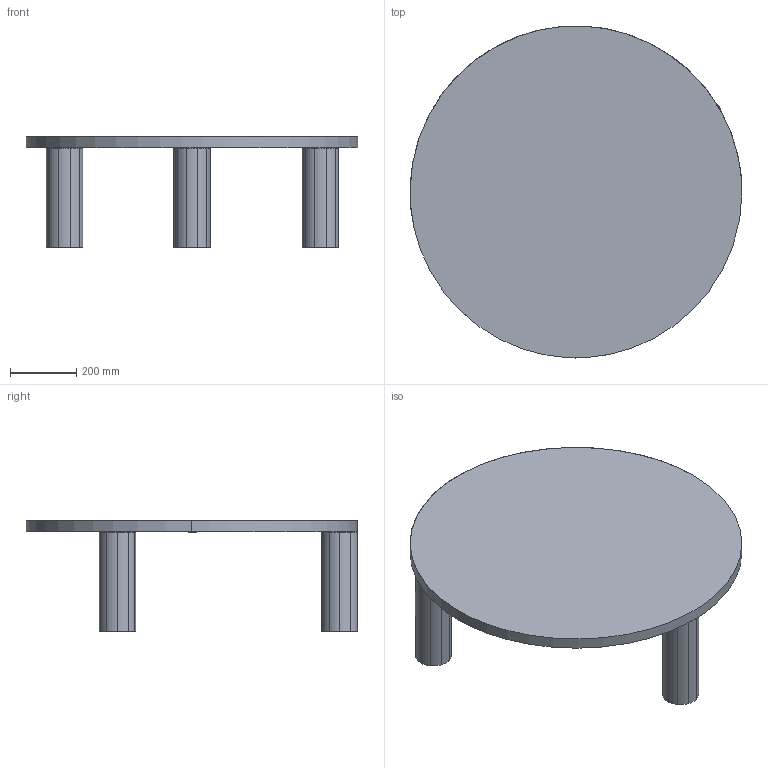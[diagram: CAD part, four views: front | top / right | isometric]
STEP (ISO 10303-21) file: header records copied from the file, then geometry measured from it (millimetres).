
FILE_DESCRIPTION(/* description */ (''),/* implementation_level */ '2;1');
FILE_NAME(/* name */ 'POST COFFEE TABLE_R5',/* time_stamp */ '2021-05-03T13:38:33+02:00',/* author */ (''),/* organization */ (''),/* preprocessor_version */ 'ST-DEVELOPER v16.5',/* originating_system */ '',/* authorisation */ '');
FILE_SCHEMA (('CONFIG_CONTROL_DESIGN'));
Length unit declared in the file: millimetre
Products named in the file (1): Document
Bounding box: 1000 x 999.68 x 334.4 mm (x, y, z)
Volume: 7217689.6 mm3; surface area: 2635779.5 mm2
Topology: 13 solids, 52 shells, 358 faces, 965 edges, 644 vertices
Faces by surface type: cylinder 221, plane 113, bspline 24
Entity records: 39531 total; most frequent: CARTESIAN_POINT 33417, ORIENTED_EDGE 1666, EDGE_CURVE 965, VERTEX_POINT 644, B_SPLINE_CURVE_WITH_KNOTS 540, EDGE_LOOP 373, ADVANCED_FACE 358, FACE_OUTER_BOUND 358
